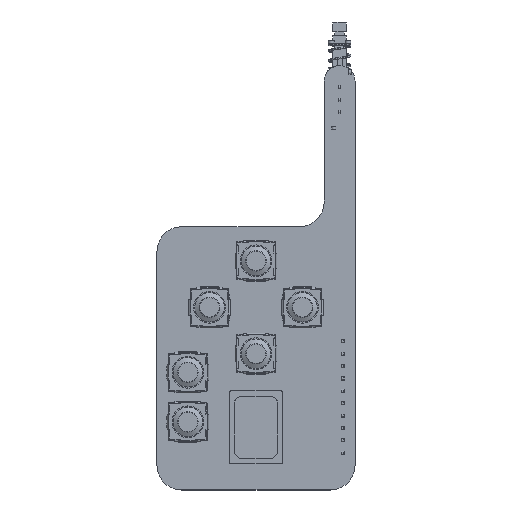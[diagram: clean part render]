
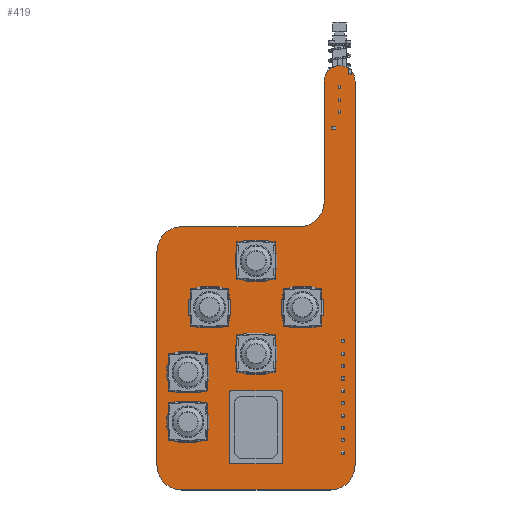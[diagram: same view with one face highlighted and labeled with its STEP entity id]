
A CAD part, top view. The second image highlights one B-rep face of the part: STEP entity #419.
In plain terms, the highlighted planar face has unit normal (0, 0, 1).
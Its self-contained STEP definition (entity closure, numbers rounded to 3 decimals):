
#88 = VERTEX_POINT('',#89);
#89 = CARTESIAN_POINT('',(30.48,25.4,0.411));
#95 = EDGE_CURVE('',#88,#96,#98,.T.);
#96 = VERTEX_POINT('',#97);
#97 = CARTESIAN_POINT('',(25.4,30.48,0.411));
#98 = CIRCLE('',#99,5.08);
#99 = AXIS2_PLACEMENT_3D('',#100,#101,#102);
#100 = CARTESIAN_POINT('',(30.48,30.48,0.411));
#101 = DIRECTION('',(0.,0.,-1.));
#102 = DIRECTION('',(0.,-1.,0.));
#128 = EDGE_CURVE('',#96,#129,#131,.T.);
#129 = VERTEX_POINT('',#130);
#130 = CARTESIAN_POINT('',(25.4,74.295,0.411));
#131 = LINE('',#132,#133);
#132 = CARTESIAN_POINT('',(25.4,30.48,0.411));
#133 = VECTOR('',#134,1.);
#134 = DIRECTION('',(0.,1.,0.));
#159 = EDGE_CURVE('',#129,#160,#162,.T.);
#160 = VERTEX_POINT('',#161);
#161 = CARTESIAN_POINT('',(30.48,79.375,0.411));
#162 = CIRCLE('',#163,5.08);
#163 = AXIS2_PLACEMENT_3D('',#164,#165,#166);
#164 = CARTESIAN_POINT('',(30.48,74.295,0.411));
#165 = DIRECTION('',(0.,0.,-1.));
#166 = DIRECTION('',(-1.,0.,0.));
#192 = EDGE_CURVE('',#160,#193,#195,.T.);
#193 = VERTEX_POINT('',#194);
#194 = CARTESIAN_POINT('',(54.61,79.375,0.411));
#195 = LINE('',#196,#197);
#196 = CARTESIAN_POINT('',(30.48,79.375,0.411));
#197 = VECTOR('',#198,1.);
#198 = DIRECTION('',(1.,0.,0.));
#223 = EDGE_CURVE('',#193,#224,#226,.T.);
#224 = VERTEX_POINT('',#225);
#225 = CARTESIAN_POINT('',(59.69,84.455,0.411));
#226 = CIRCLE('',#227,5.08);
#227 = AXIS2_PLACEMENT_3D('',#228,#229,#230);
#228 = CARTESIAN_POINT('',(54.61,84.455,0.411));
#229 = DIRECTION('',(0.,0.,1.));
#230 = DIRECTION('',(0.,-1.,0.));
#256 = EDGE_CURVE('',#224,#257,#259,.T.);
#257 = VERTEX_POINT('',#258);
#258 = CARTESIAN_POINT('',(59.69,109.22,0.411));
#259 = LINE('',#260,#261);
#260 = CARTESIAN_POINT('',(59.69,84.455,0.411));
#261 = VECTOR('',#262,1.);
#262 = DIRECTION('',(0.,1.,0.));
#287 = EDGE_CURVE('',#257,#288,#290,.T.);
#288 = VERTEX_POINT('',#289);
#289 = CARTESIAN_POINT('',(66.04,109.22,0.411));
#290 = CIRCLE('',#291,3.175);
#291 = AXIS2_PLACEMENT_3D('',#292,#293,#294);
#292 = CARTESIAN_POINT('',(62.865,109.22,0.411));
#293 = DIRECTION('',(0.,0.,-1.));
#294 = DIRECTION('',(-1.,0.,0.));
#320 = EDGE_CURVE('',#288,#321,#323,.T.);
#321 = VERTEX_POINT('',#322);
#322 = CARTESIAN_POINT('',(66.04,30.48,0.411));
#323 = LINE('',#324,#325);
#324 = CARTESIAN_POINT('',(66.04,109.22,0.411));
#325 = VECTOR('',#326,1.);
#326 = DIRECTION('',(0.,-1.,0.));
#351 = EDGE_CURVE('',#321,#352,#354,.T.);
#352 = VERTEX_POINT('',#353);
#353 = CARTESIAN_POINT('',(60.96,25.4,0.411));
#354 = CIRCLE('',#355,5.08);
#355 = AXIS2_PLACEMENT_3D('',#356,#357,#358);
#356 = CARTESIAN_POINT('',(60.96,30.48,0.411));
#357 = DIRECTION('',(0.,0.,-1.));
#358 = DIRECTION('',(1.,0.,0.));
#384 = EDGE_CURVE('',#352,#88,#385,.T.);
#385 = LINE('',#386,#387);
#386 = CARTESIAN_POINT('',(60.96,25.4,0.411));
#387 = VECTOR('',#388,1.);
#388 = DIRECTION('',(-1.,0.,0.));
#419 = ADVANCED_FACE('',(#420),#432,.T.);
#420 = FACE_BOUND('',#421,.F.);
#421 = EDGE_LOOP('',(#422,#423,#424,#425,#426,#427,#428,#429,#430,#431)
  );
#422 = ORIENTED_EDGE('',*,*,#95,.T.);
#423 = ORIENTED_EDGE('',*,*,#128,.T.);
#424 = ORIENTED_EDGE('',*,*,#159,.T.);
#425 = ORIENTED_EDGE('',*,*,#192,.T.);
#426 = ORIENTED_EDGE('',*,*,#223,.T.);
#427 = ORIENTED_EDGE('',*,*,#256,.T.);
#428 = ORIENTED_EDGE('',*,*,#287,.T.);
#429 = ORIENTED_EDGE('',*,*,#320,.T.);
#430 = ORIENTED_EDGE('',*,*,#351,.T.);
#431 = ORIENTED_EDGE('',*,*,#384,.T.);
#432 = PLANE('',#433);
#433 = AXIS2_PLACEMENT_3D('',#434,#435,#436);
#434 = CARTESIAN_POINT('',(30.48,25.4,0.411));
#435 = DIRECTION('',(0.,0.,1.));
#436 = DIRECTION('',(1.,0.,0.));
